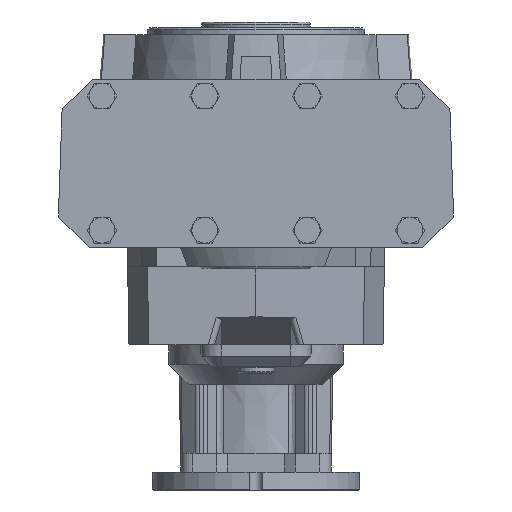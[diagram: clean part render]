
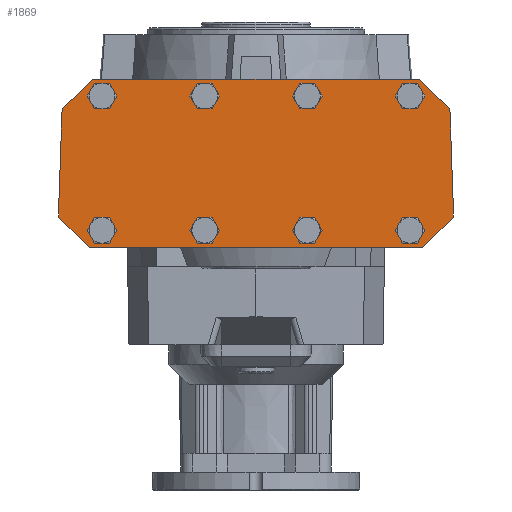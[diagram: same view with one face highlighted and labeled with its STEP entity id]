
A CAD part, front view. The second image highlights one B-rep face of the part: STEP entity #1869.
In plain terms, the highlighted planar face has unit normal (0, -1, 0).
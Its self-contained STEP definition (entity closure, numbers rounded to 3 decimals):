
#1869 = ADVANCED_FACE( '', ( #4282, #4283, #4284, #4285, #4286, #4287, #4288, #4289, #4290 ), #4291, .F. );
#4282 = FACE_BOUND( '', #7435, .T. );
#4283 = FACE_BOUND( '', #7436, .T. );
#4284 = FACE_BOUND( '', #7437, .T. );
#4285 = FACE_BOUND( '', #7438, .T. );
#4286 = FACE_BOUND( '', #7439, .T. );
#4287 = FACE_BOUND( '', #7440, .T. );
#4288 = FACE_BOUND( '', #7441, .T. );
#4289 = FACE_BOUND( '', #7442, .T. );
#4290 = FACE_OUTER_BOUND( '', #7443, .T. );
#4291 = PLANE( '', #7444 );
#7435 = EDGE_LOOP( '', ( #12983 ) );
#7436 = EDGE_LOOP( '', ( #12984 ) );
#7437 = EDGE_LOOP( '', ( #12985 ) );
#7438 = EDGE_LOOP( '', ( #12986 ) );
#7439 = EDGE_LOOP( '', ( #12987 ) );
#7440 = EDGE_LOOP( '', ( #12988 ) );
#7441 = EDGE_LOOP( '', ( #12989 ) );
#7442 = EDGE_LOOP( '', ( #12990 ) );
#7443 = EDGE_LOOP( '', ( #12991, #12992, #12993, #12994, #12995, #12996, #12997, #12998, #12999, #13000 ) );
#7444 = AXIS2_PLACEMENT_3D( '', #13001, #13002, #13003 );
#12983 = ORIENTED_EDGE( '', *, *, #17179, .T. );
#12984 = ORIENTED_EDGE( '', *, *, #18673, .T. );
#12985 = ORIENTED_EDGE( '', *, *, #18674, .T. );
#12986 = ORIENTED_EDGE( '', *, *, #18438, .T. );
#12987 = ORIENTED_EDGE( '', *, *, #18675, .T. );
#12988 = ORIENTED_EDGE( '', *, *, #18676, .T. );
#12989 = ORIENTED_EDGE( '', *, *, #18204, .T. );
#12990 = ORIENTED_EDGE( '', *, *, #17542, .T. );
#12991 = ORIENTED_EDGE( '', *, *, #18677, .F. );
#12992 = ORIENTED_EDGE( '', *, *, #18600, .T. );
#12993 = ORIENTED_EDGE( '', *, *, #18678, .F. );
#12994 = ORIENTED_EDGE( '', *, *, #18679, .F. );
#12995 = ORIENTED_EDGE( '', *, *, #17855, .T. );
#12996 = ORIENTED_EDGE( '', *, *, #18680, .F. );
#12997 = ORIENTED_EDGE( '', *, *, #18681, .T. );
#12998 = ORIENTED_EDGE( '', *, *, #17031, .F. );
#12999 = ORIENTED_EDGE( '', *, *, #18682, .F. );
#13000 = ORIENTED_EDGE( '', *, *, #18683, .T. );
#13001 = CARTESIAN_POINT( '', ( 100., -95., -107.5 ) );
#13002 = DIRECTION( '', ( 0., 1., 0. ) );
#13003 = DIRECTION( '', ( 1., 0., 0. ) );
#17031 = EDGE_CURVE( '', #19923, #19924, #19925, .F. );
#17179 = EDGE_CURVE( '', #20186, #20186, #20187, .T. );
#17542 = EDGE_CURVE( '', #20787, #20787, #20788, .T. );
#17855 = EDGE_CURVE( '', #21304, #21302, #21305, .T. );
#18204 = EDGE_CURVE( '', #21845, #21845, #21846, .T. );
#18438 = EDGE_CURVE( '', #22185, #22185, #22186, .T. );
#18600 = EDGE_CURVE( '', #22418, #22416, #22419, .T. );
#18673 = EDGE_CURVE( '', #22515, #22515, #22516, .T. );
#18674 = EDGE_CURVE( '', #22517, #22517, #22518, .T. );
#18675 = EDGE_CURVE( '', #22519, #22519, #22520, .T. );
#18676 = EDGE_CURVE( '', #22521, #22521, #22522, .T. );
#18677 = EDGE_CURVE( '', #22418, #22523, #22524, .T. );
#18678 = EDGE_CURVE( '', #22525, #22416, #22526, .F. );
#18679 = EDGE_CURVE( '', #21304, #22525, #22527, .F. );
#18680 = EDGE_CURVE( '', #22528, #21302, #22529, .T. );
#18681 = EDGE_CURVE( '', #22528, #19924, #22530, .T. );
#18682 = EDGE_CURVE( '', #22531, #19923, #22532, .F. );
#18683 = EDGE_CURVE( '', #22531, #22523, #22533, .T. );
#19923 = VERTEX_POINT( '', #24083 );
#19924 = VERTEX_POINT( '', #24084 );
#19925 = LINE( '', #24085, #24086 );
#20186 = VERTEX_POINT( '', #24538 );
#20187 = CIRCLE( '', #24539, 5.7 );
#20787 = VERTEX_POINT( '', #25551 );
#20788 = CIRCLE( '', #25552, 5.7 );
#21302 = VERTEX_POINT( '', #26424 );
#21304 = VERTEX_POINT( '', #26427 );
#21305 = LINE( '', #26428, #26429 );
#21845 = VERTEX_POINT( '', #27241 );
#21846 = CIRCLE( '', #27242, 5.7 );
#22185 = VERTEX_POINT( '', #27843 );
#22186 = CIRCLE( '', #27844, 5.7 );
#22416 = VERTEX_POINT( '', #28187 );
#22418 = VERTEX_POINT( '', #28190 );
#22419 = LINE( '', #28191, #28192 );
#22515 = VERTEX_POINT( '', #28326 );
#22516 = CIRCLE( '', #28327, 5.7 );
#22517 = VERTEX_POINT( '', #28328 );
#22518 = CIRCLE( '', #28329, 5.7 );
#22519 = VERTEX_POINT( '', #28330 );
#22520 = CIRCLE( '', #28331, 5.7 );
#22521 = VERTEX_POINT( '', #28332 );
#22522 = CIRCLE( '', #28333, 5.7 );
#22523 = VERTEX_POINT( '', #28334 );
#22524 = LINE( '', #28335, #28336 );
#22525 = VERTEX_POINT( '', #28337 );
#22526 = LINE( '', #28338, #28339 );
#22527 = LINE( '', #28340, #28341 );
#22528 = VERTEX_POINT( '', #28342 );
#22529 = LINE( '', #28343, #28344 );
#22530 = LINE( '', #28345, #28346 );
#22531 = VERTEX_POINT( '', #28347 );
#22532 = LINE( '', #28348, #28349 );
#22533 = LINE( '', #28350, #28351 );
#24083 = CARTESIAN_POINT( '', ( 100., -95., -89.5 ) );
#24084 = CARTESIAN_POINT( '', ( 99.895, -95., -92.509 ) );
#24085 = CARTESIAN_POINT( '', ( 100., -95., -89.5 ) );
#24086 = VECTOR( '', #30455, 1000. );
#24538 = CARTESIAN_POINT( '', ( -78., -95., -25.3 ) );
#24539 = AXIS2_PLACEMENT_3D( '', #30589, #30590, #30591 );
#25551 = CARTESIAN_POINT( '', ( -26., -95., -25.3 ) );
#25552 = AXIS2_PLACEMENT_3D( '', #30944, #30945, #30946 );
#26424 = CARTESIAN_POINT( '', ( -84.371, -95., -107.5 ) );
#26427 = CARTESIAN_POINT( '', ( -99.895, -95., -92.509 ) );
#26428 = CARTESIAN_POINT( '', ( -99.895, -95., -92.509 ) );
#26429 = VECTOR( '', #31278, 1000. );
#27241 = CARTESIAN_POINT( '', ( 26., -95., -25.3 ) );
#27242 = AXIS2_PLACEMENT_3D( '', #31647, #31648, #31649 );
#27843 = CARTESIAN_POINT( '', ( 26., -95., -93.3 ) );
#27844 = AXIS2_PLACEMENT_3D( '', #31882, #31883, #31884 );
#28187 = CARTESIAN_POINT( '', ( -98.184, -95., -37.491 ) );
#28190 = CARTESIAN_POINT( '', ( -82.66, -95., -22.5 ) );
#28191 = CARTESIAN_POINT( '', ( -82.66, -95., -22.5 ) );
#28192 = VECTOR( '', #32036, 1000. );
#28326 = CARTESIAN_POINT( '', ( -78., -95., -93.3 ) );
#28327 = AXIS2_PLACEMENT_3D( '', #32111, #32112, #32113 );
#28328 = CARTESIAN_POINT( '', ( -26., -95., -93.3 ) );
#28329 = AXIS2_PLACEMENT_3D( '', #32114, #32115, #32116 );
#28330 = CARTESIAN_POINT( '', ( 78., -95., -93.3 ) );
#28331 = AXIS2_PLACEMENT_3D( '', #32117, #32118, #32119 );
#28332 = CARTESIAN_POINT( '', ( 78., -95., -25.3 ) );
#28333 = AXIS2_PLACEMENT_3D( '', #32120, #32121, #32122 );
#28334 = CARTESIAN_POINT( '', ( 82.66, -95., -22.5 ) );
#28335 = CARTESIAN_POINT( '', ( -100., -95., -22.5 ) );
#28336 = VECTOR( '', #32123, 1000. );
#28337 = CARTESIAN_POINT( '', ( -100., -95., -89.5 ) );
#28338 = CARTESIAN_POINT( '', ( -100., -95., -89.5 ) );
#28339 = VECTOR( '', #32124, 1000. );
#28340 = CARTESIAN_POINT( '', ( -100., -95., -89.5 ) );
#28341 = VECTOR( '', #32125, 1000. );
#28342 = CARTESIAN_POINT( '', ( 84.371, -95., -107.5 ) );
#28343 = CARTESIAN_POINT( '', ( 100., -95., -107.5 ) );
#28344 = VECTOR( '', #32126, 1000. );
#28345 = CARTESIAN_POINT( '', ( 84.371, -95., -107.5 ) );
#28346 = VECTOR( '', #32127, 1000. );
#28347 = CARTESIAN_POINT( '', ( 98.184, -95., -37.491 ) );
#28348 = CARTESIAN_POINT( '', ( 100., -95., -89.5 ) );
#28349 = VECTOR( '', #32128, 1000. );
#28350 = CARTESIAN_POINT( '', ( 98.184, -95., -37.491 ) );
#28351 = VECTOR( '', #32129, 1000. );
#30455 = DIRECTION( '', ( 0.035, 0., 0.999 ) );
#30589 = CARTESIAN_POINT( '', ( -78., -95., -31. ) );
#30590 = DIRECTION( '', ( 0., 1., 0. ) );
#30591 = DIRECTION( '', ( 0., 0., 1. ) );
#30944 = CARTESIAN_POINT( '', ( -26., -95., -31. ) );
#30945 = DIRECTION( '', ( 0., 1., 0. ) );
#30946 = DIRECTION( '', ( 0., 0., 1. ) );
#31278 = DIRECTION( '', ( 0.719, 0., -0.695 ) );
#31647 = CARTESIAN_POINT( '', ( 26., -95., -31. ) );
#31648 = DIRECTION( '', ( 0., 1., 0. ) );
#31649 = DIRECTION( '', ( 0., 0., 1. ) );
#31882 = CARTESIAN_POINT( '', ( 26., -95., -99. ) );
#31883 = DIRECTION( '', ( 0., 1., 0. ) );
#31884 = DIRECTION( '', ( 0., 0., 1. ) );
#32036 = DIRECTION( '', ( -0.719, 0., -0.695 ) );
#32111 = CARTESIAN_POINT( '', ( -78., -95., -99. ) );
#32112 = DIRECTION( '', ( 0., 1., 0. ) );
#32113 = DIRECTION( '', ( 0., 0., 1. ) );
#32114 = CARTESIAN_POINT( '', ( -26., -95., -99. ) );
#32115 = DIRECTION( '', ( 0., 1., 0. ) );
#32116 = DIRECTION( '', ( 0., 0., 1. ) );
#32117 = CARTESIAN_POINT( '', ( 78., -95., -99. ) );
#32118 = DIRECTION( '', ( 0., 1., 0. ) );
#32119 = DIRECTION( '', ( 0., 0., 1. ) );
#32120 = CARTESIAN_POINT( '', ( 78., -95., -31. ) );
#32121 = DIRECTION( '', ( 0., 1., 0. ) );
#32122 = DIRECTION( '', ( 0., 0., 1. ) );
#32123 = DIRECTION( '', ( 1., 0., 0. ) );
#32124 = DIRECTION( '', ( -0.035, 0., -0.999 ) );
#32125 = DIRECTION( '', ( 0.035, 0., -0.999 ) );
#32126 = DIRECTION( '', ( -1., 0., 0. ) );
#32127 = DIRECTION( '', ( 0.719, 0., 0.695 ) );
#32128 = DIRECTION( '', ( -0.035, 0., 0.999 ) );
#32129 = DIRECTION( '', ( -0.719, 0., 0.695 ) );
